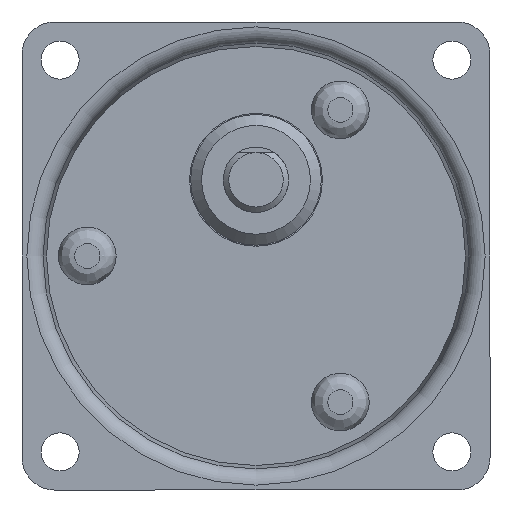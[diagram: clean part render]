
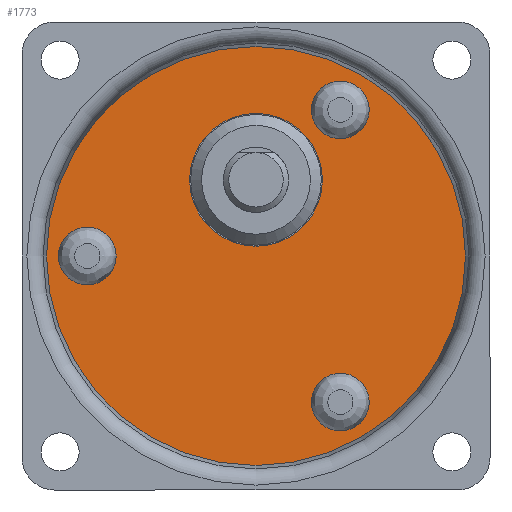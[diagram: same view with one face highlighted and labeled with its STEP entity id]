
A CAD part, front view. The second image highlights one B-rep face of the part: STEP entity #1773.
In plain terms, the highlighted planar face has unit normal (0, -1, 0).
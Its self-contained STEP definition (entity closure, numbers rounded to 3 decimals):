
#1288=CARTESIAN_POINT('',(6.425,-3.65,-11.128));
#1289=VERTEX_POINT('',#1288);
#1290=CARTESIAN_POINT('',(7.75,-3.65,-13.423));
#1291=DIRECTION('',(0.,1.,0.));
#1292=DIRECTION('',(0.5,0.,-0.866));
#1293=AXIS2_PLACEMENT_3D('',#1290,#1291,#1292);
#1294=CIRCLE('',#1293,2.65);
#1295=EDGE_CURVE('',#1289,#1289,#1294,.T.);
#1393=CARTESIAN_POINT('',(6.425,-3.65,11.128));
#1394=VERTEX_POINT('',#1393);
#1395=CARTESIAN_POINT('',(7.75,-3.65,13.423));
#1396=DIRECTION('',(0.,1.,0.));
#1397=DIRECTION('',(0.5,0.,0.866));
#1398=AXIS2_PLACEMENT_3D('',#1395,#1396,#1397);
#1399=CIRCLE('',#1398,2.65);
#1400=EDGE_CURVE('',#1394,#1394,#1399,.T.);
#1498=CARTESIAN_POINT('',(-12.85,-3.65,0.));
#1499=VERTEX_POINT('',#1498);
#1500=CARTESIAN_POINT('',(-15.5,-3.65,0.));
#1501=DIRECTION('',(0.0,1.0,0.0));
#1502=DIRECTION('',(-1.0,0.0,0.0));
#1503=AXIS2_PLACEMENT_3D('',#1500,#1501,#1502);
#1504=CIRCLE('',#1503,2.65);
#1505=EDGE_CURVE('',#1499,#1499,#1504,.T.);
#1530=CARTESIAN_POINT('',(6.1,-3.65,7.));
#1531=VERTEX_POINT('',#1530);
#1532=CARTESIAN_POINT('',(0.,-3.65,7.));
#1533=DIRECTION('',(0.0,1.0,0.0));
#1534=DIRECTION('',(-1.0,0.0,0.0));
#1535=AXIS2_PLACEMENT_3D('',#1532,#1533,#1534);
#1536=CIRCLE('',#1535,6.1);
#1537=EDGE_CURVE('',#1531,#1531,#1536,.T.);
#1615=CARTESIAN_POINT('',(0.,-3.65,-19.25));
#1616=VERTEX_POINT('',#1615);
#1617=CARTESIAN_POINT('',(0.,-3.65,0.));
#1618=DIRECTION('',(0.0,-1.0,0.0));
#1619=DIRECTION('',(0.0,0.0,1.0));
#1620=AXIS2_PLACEMENT_3D('',#1617,#1618,#1619);
#1621=CIRCLE('',#1620,19.25);
#1622=EDGE_CURVE('',#1616,#1616,#1621,.F.);
#1753=CARTESIAN_POINT('',(0.,-3.65,10.059));
#1754=DIRECTION('',(0.0,1.0,0.0));
#1755=DIRECTION('',(0.0,0.0,1.0));
#1756=AXIS2_PLACEMENT_3D('',#1753,#1754,#1755);
#1757=PLANE('',#1756);
#1758=ORIENTED_EDGE('',*,*,#1622,.F.);
#1759=EDGE_LOOP('',(#1758));
#1760=FACE_OUTER_BOUND('',#1759,.T.);
#1761=ORIENTED_EDGE('',*,*,#1295,.T.);
#1762=EDGE_LOOP('',(#1761));
#1763=FACE_BOUND('',#1762,.T.);
#1764=ORIENTED_EDGE('',*,*,#1400,.T.);
#1765=EDGE_LOOP('',(#1764));
#1766=FACE_BOUND('',#1765,.T.);
#1767=ORIENTED_EDGE('',*,*,#1505,.T.);
#1768=EDGE_LOOP('',(#1767));
#1769=FACE_BOUND('',#1768,.T.);
#1770=ORIENTED_EDGE('',*,*,#1537,.T.);
#1771=EDGE_LOOP('',(#1770));
#1772=FACE_BOUND('',#1771,.T.);
#1773=ADVANCED_FACE('',(#1760,#1763,#1766,#1769,#1772),#1757,.F.);
